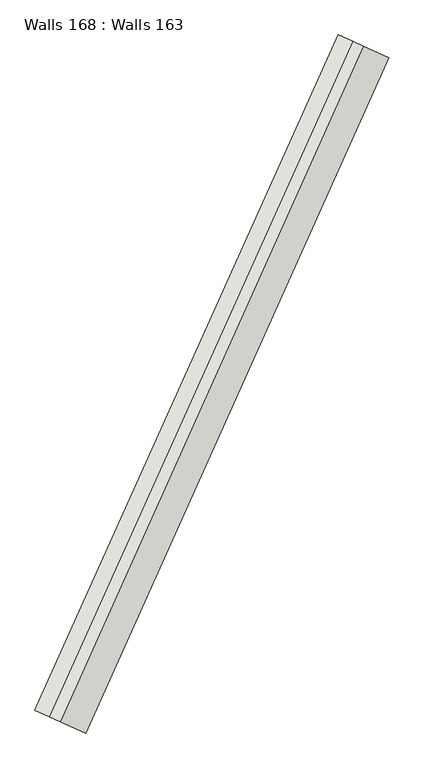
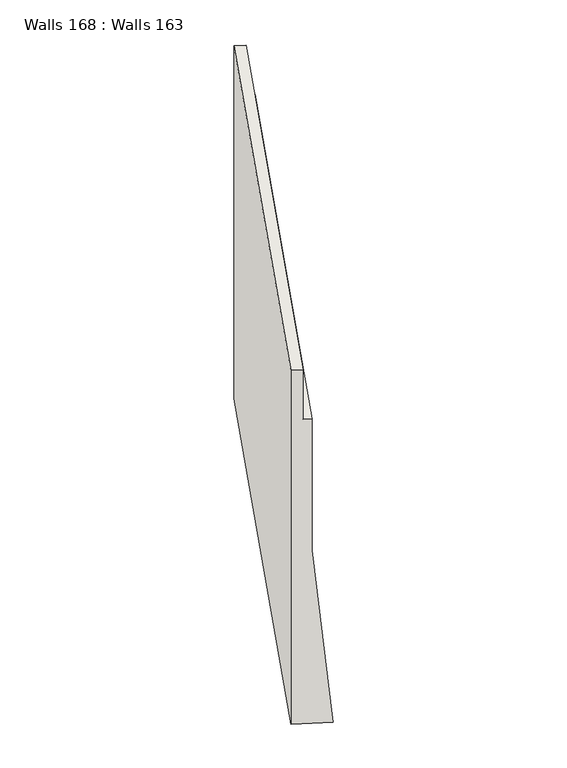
"""IFC4 building model written with IfcOpenShell, lengths in millimetres: wall geometry, Walls 168 : Walls 163."""

import ifcopenshell
import ifcopenshell.guid

model = None  # the IFC model being written
_history = None  # IfcOwnerHistory: only IFC2X3 demands one
_inside = {}  # id of a spatial element -> (the spatial element, [elements in it])
_under = {}  # id of a project, library or spatial element -> (it, [spatial elements below it])
_declared = {}  # id of a project -> (the project, [libraries it declares])
_typed = {}  # id of a type object -> (the type object, [elements of that type])
_made_of = {}  # id of a material, layer set ... -> (it, [elements and type objects made of it])


def new_model(schema):
    """Start an empty IFC model of exactly this schema.

    Asked for "IFC4X3", IfcOpenShell would pick the latest addendum, in which some entities
    have other attributes; the version numbers below select the first issue.
    IFC2X3 requires an IfcOwnerHistory on every rooted entity: one is made here for all.
    """
    global model, _history
    if schema == "IFC4X3":
        model = ifcopenshell.file(schema_version=(4, 3, 0, 0))
    else:
        model = ifcopenshell.file(schema=schema)
    _inside.clear()
    _under.clear()
    _declared.clear()
    _typed.clear()
    _made_of.clear()
    _history = None
    if model.schema == "IFC2X3":
        org = make("IfcOrganization", Name="unknown")
        user = make(
            "IfcPersonAndOrganization",
            ThePerson=make("IfcPerson", FamilyName="unknown"),
            TheOrganization=org,
        )
        app = make(
            "IfcApplication",
            ApplicationDeveloper=org,
            Version="unknown",
            ApplicationFullName="unknown",
            ApplicationIdentifier="unknown",
        )
        _history = make(
            "IfcOwnerHistory",
            OwningUser=user,
            OwningApplication=app,
            ChangeAction="ADDED",
            CreationDate=0,
        )
    return model


def make(cls, **values):
    """One entity of the class cls with the attributes given. An attribute that is None is left unset."""
    return model.create_entity(
        cls, **{name: value for name, value in values.items() if value is not None}
    )


def rooted(cls, **values):
    """An entity with a GlobalId (a new one), such as an element, a storey or a relation."""
    return make(cls, GlobalId=ifcopenshell.guid.new(), OwnerHistory=_history, **values)


def si_unit(unit_type, name, prefix=None):
    """IfcSIUnit, for example si_unit("LENGTHUNIT", "METRE", prefix="MILLI")."""
    return make("IfcSIUnit", UnitType=unit_type, Prefix=prefix, Name=name)


def assignment(units):
    """IfcUnitAssignment: the units of a project."""
    return None if units is None else make("IfcUnitAssignment", Units=units)


def point(xyz):
    """IfcCartesianPoint."""
    return None if xyz is None else make("IfcCartesianPoint", Coordinates=xyz)


def direction(xyz):
    """IfcDirection."""
    return None if xyz is None else make("IfcDirection", DirectionRatios=xyz)


def frame(location, z_axis=None, x_axis=None):
    """IfcAxis2Placement3D, a coordinate frame: its origin and axes. An axis left out is left unset."""
    return make(
        "IfcAxis2Placement3D",
        Location=point(location),
        Axis=direction(z_axis),
        RefDirection=direction(x_axis),
    )


def origin():
    """The frame at (0, 0, 0) with its axes left unset."""
    return frame((0.0, 0.0, 0.0))


def place(relative_to, where):
    """IfcLocalPlacement: puts the frame where relative to a parent placement (None: the world)."""
    return make(
        "IfcLocalPlacement", PlacementRelTo=relative_to, RelativePlacement=where
    )


def context(
    kind, dimensions, precision=None, world=None, true_north=None, identifier=None
):
    """IfcGeometricRepresentationContext, for example the 3D "Model" context."""
    return make(
        "IfcGeometricRepresentationContext",
        ContextIdentifier=identifier,
        ContextType=kind,
        CoordinateSpaceDimension=dimensions,
        Precision=precision,
        WorldCoordinateSystem=world,
        TrueNorth=true_north,
    )


def project(units=None, contexts=None):
    """IfcProject with its units and contexts."""
    return rooted(
        "IfcProject",
        Name="project",
        RepresentationContexts=contexts,
        UnitsInContext=assignment(units),
    )


def spatial(cls, under=None, at=None, **own):
    """A site, building, storey or space (cls), placed at a placement, below another one or the project."""
    s = rooted(cls, ObjectPlacement=at, **own)
    if under is not None:
        _under.setdefault(under.id(), (under, []))[1].append(s)
    return s


def faces_of(points, faces, orient=None, outer=None):
    """IfcFace entities. A face is a list of loops; a loop is a list of indices into points, from 0.

    orient and outer hold one flag for each loop. By default every Orientation is true, the
    first loop of a face is its IfcFaceOuterBound and the others are IfcFaceBound.
    """
    made = []
    for i, loops in enumerate(faces):
        bounds = []
        for j, loop in enumerate(loops):
            is_outer = j == 0 if outer is None else outer[i][j]
            bounds.append(
                make(
                    "IfcFaceOuterBound" if is_outer else "IfcFaceBound",
                    Bound=make("IfcPolyLoop", Polygon=[points[k] for k in loop]),
                    Orientation=True if orient is None else orient[i][j],
                )
            )
        made.append(make("IfcFace", Bounds=bounds))
    return made


def faceted_brep(points, faces, orient=None, outer=None, voids=None):
    """IfcFacetedBrep: a solid bounded by flat faces; with voids (closed shells), ...WithVoids."""
    shared = [point(p) for p in points]
    hull = make("IfcClosedShell", CfsFaces=faces_of(shared, faces, orient, outer))
    if voids is None:
        return make("IfcFacetedBrep", Outer=hull)
    return make(
        "IfcFacetedBrepWithVoids",
        Outer=hull,
        Voids=[
            make(cls, CfsFaces=faces_of(shared, fs, o, b)) for cls, fs, o, b in voids
        ],
    )


def shape(context_of_items, identifier, shape_type, items):
    """IfcShapeRepresentation: the items that make up one representation, for example the "Body"."""
    return make(
        "IfcShapeRepresentation",
        ContextOfItems=context_of_items,
        RepresentationIdentifier=identifier,
        RepresentationType=shape_type,
        Items=items,
    )


def source(mapping_origin, context_of_items, identifier, shape_type, items):
    """IfcRepresentationMap: a shape defined once, which mapped items show again and again."""
    return make(
        "IfcRepresentationMap",
        MappingOrigin=mapping_origin,
        MappedRepresentation=shape(context_of_items, identifier, shape_type, items),
    )


def transform(
    local_origin,
    x_axis=None,
    y_axis=None,
    z_axis=None,
    scale=None,
    scale2=None,
    scale3=None,
    uniform=True,
):
    """IfcCartesianTransformationOperator3D, or its non-uniform kind. x_axis, y_axis, z_axis: its Axis1, 2, 3."""
    if uniform:
        return make(
            "IfcCartesianTransformationOperator3D",
            Axis1=direction(x_axis),
            Axis2=direction(y_axis),
            LocalOrigin=point(local_origin),
            Scale=scale,
            Axis3=direction(z_axis),
        )
    return make(
        "IfcCartesianTransformationOperator3DnonUniform",
        Axis1=direction(x_axis),
        Axis2=direction(y_axis),
        LocalOrigin=point(local_origin),
        Scale=scale,
        Axis3=direction(z_axis),
        Scale2=scale2,
        Scale3=scale3,
    )


def mapped(mapping_source, mapping_target):
    """IfcMappedItem: shows the shape of a source again, moved by a transform."""
    return make(
        "IfcMappedItem", MappingSource=mapping_source, MappingTarget=mapping_target
    )


def made_of(thing, what):
    """Note that an element or type object is made of a material, layer set ...; save() writes the relation."""
    if what is not None:
        _made_of.setdefault(what.id(), (what, []))[1].append(thing)
    return thing


def element(
    cls,
    number,
    at=None,
    inside=None,
    cuts=None,
    type_object=None,
    material=None,
    context=None,
    identifier="Body",
    shape_type=None,
    held_by="IfcProductDefinitionShape",
    body=None,
    shapes=None,
    **own,
):
    """One element of the class cls, such as IfcWall. Its Tag is "e" and its number.

    at: its placement. inside: the storey or other place that contains it. cuts: it is an
    opening in that element (IfcRelVoidsElement). A single representation is given by context,
    identifier, shape_type and body (its items); several are given by shapes. held_by: the class
    of the entity that holds the representations. save() writes the other relations.
    """
    e = rooted(cls, Tag="e%d" % number, ObjectPlacement=at, **own)
    if body is not None:
        shapes = [shape(context, identifier, shape_type, body)]
    if shapes is not None:
        e.Representation = make(held_by, Representations=shapes)
    if inside is not None:
        _inside.setdefault(inside.id(), (inside, []))[1].append(e)
    if cuts is not None:
        rooted(
            "IfcRelVoidsElement", RelatingBuildingElement=cuts, RelatedOpeningElement=e
        )
    if type_object is not None:
        _typed.setdefault(type_object.id(), (type_object, []))[1].append(e)
    return made_of(e, material)


def aggregate(whole, parts):
    """IfcRelAggregates: a whole, such as a stair, and the parts it consists of."""
    return rooted("IfcRelAggregates", RelatingObject=whole, RelatedObjects=parts)


def save(model, path):
    """Write the relations noted so far, then the file.

    IfcRelAggregates (storeys below a building ...), IfcRelContainedInSpatialStructure (elements
    in a storey), IfcRelDefinesByType, IfcRelAssociatesMaterial and IfcRelDeclares: one each for
    every whole, place, type object, material and project.
    """
    for whole, parts in _under.values():
        aggregate(whole, parts)
    for where, things in _inside.values():
        rooted(
            "IfcRelContainedInSpatialStructure",
            RelatedElements=things,
            RelatingStructure=where,
        )
    for kind, things in _typed.values():
        rooted("IfcRelDefinesByType", RelatedObjects=things, RelatingType=kind)
    for what, things in _made_of.values():
        rooted("IfcRelAssociatesMaterial", RelatedObjects=things, RelatingMaterial=what)
    for by, libraries in _declared.values():
        rooted("IfcRelDeclares", RelatingContext=by, RelatedDefinitions=libraries)
    model.write(path)


def walls_168_walls_163_bf4954ff(model_context):
    return source(origin(), model_context, "Body", "Brep", [
        faceted_brep([(192422.7532727, 71529.5885584, 649330.0), (192422.7532727, 71529.5885584, 642170.0), (193061.3442092, 71242.8803167, 642170.0), (192742.048741, 71386.2344375, 645670.0), (192742.048741, 71386.2344375, 648330.0), (192605.207826, 71447.6719179, 648330.0), (192605.207826, 71447.6719179, 649330.0), (196231.8770556, 80013.7252851, 649410.0), (196414.3316088, 79931.8086446, 649410.0), (196414.3316088, 79931.8086446, 648410.0), (196551.1725238, 79870.3711643, 648410.0), (196551.1725238, 79870.3711643, 645780.0), (196870.467992, 79727.0170434, 642280.0), (196231.8770556, 80013.7252851, 642280.0)], [[[0, 1, 2, 3, 4, 5, 6]], [[7, 8, 9, 10, 11, 12, 13]], [[7, 13, 1, 0]], [[13, 12, 2, 1]], [[12, 11, 3, 2]], [[11, 10, 4, 3]], [[10, 9, 5, 4]], [[9, 8, 6, 5]], [[8, 7, 0, 6]]]),
    ])


if __name__ == "__main__":
    model = new_model("IFC4")
    model_context = context("Model", 3, world=origin())
    ifc_project = project(units=[si_unit("LENGTHUNIT", "METRE", prefix="MILLI")], contexts=[model_context])
    site = spatial("IfcSite", under=ifc_project)
    building = spatial("IfcBuilding", under=site)
    placement = place(None, origin())
    walls_168_walls_163_shape = walls_168_walls_163_bf4954ff(model_context)
    element("IfcWall", 1, ObjectType="Walls 168 : Walls 163", at=placement, inside=building, context=model_context, shape_type="MappedRepresentation", body=[
        mapped(walls_168_walls_163_shape, transform((0.0, 0.0, 0.0), x_axis=(1.0, 0.0, 0.0), y_axis=(0.0, 1.0, 0.0), z_axis=(0.0, 0.0, 1.0))),
    ])
    save(model, "model.ifc")
